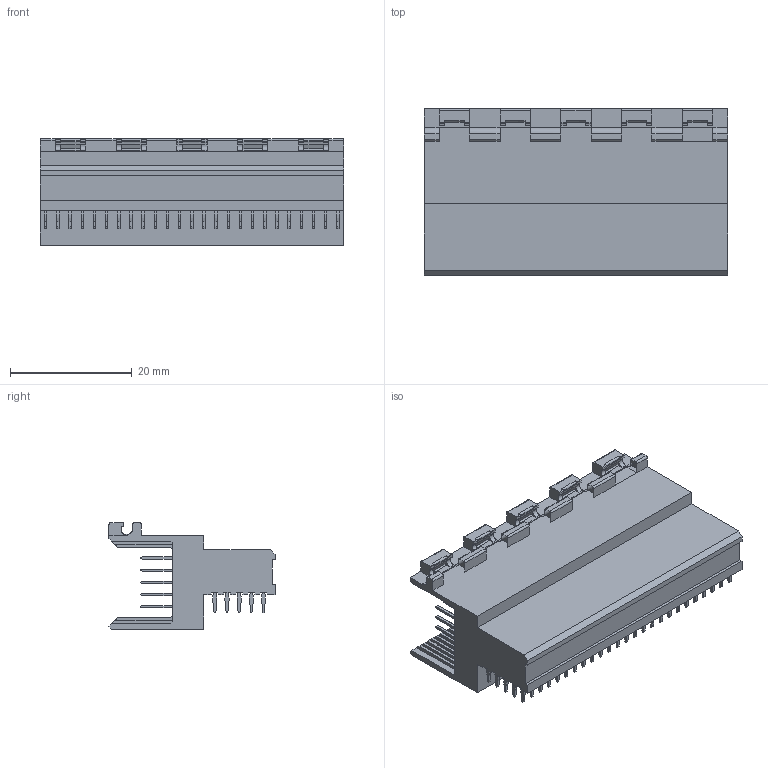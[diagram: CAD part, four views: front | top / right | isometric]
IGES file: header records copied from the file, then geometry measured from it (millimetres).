
Start section: SolidWorks IGES file using analytic representation for surfaces
Global section: file name: Q:\Kamikawa_Hisako\190827\MK\17_8072_xxx_xxx_xxx+\17_8072_125_200_xxx.IGS; native system: SolidWorks 2017; preprocessor: SolidWorks 2017; author: HISAKO.KAMIKAWA.FJ; date: 190827.114010; units: millimetre
Bounding box: 49.85 x 27.3 x 17.5 mm (x, y, z)
Surface area: 8823.4 mm2 (no closed solid volume)
Topology: 0 solids, 0 shells, 2670 faces, 17262 edges, 17250 vertices
Faces by surface type: bspline 2354, revolution 316
